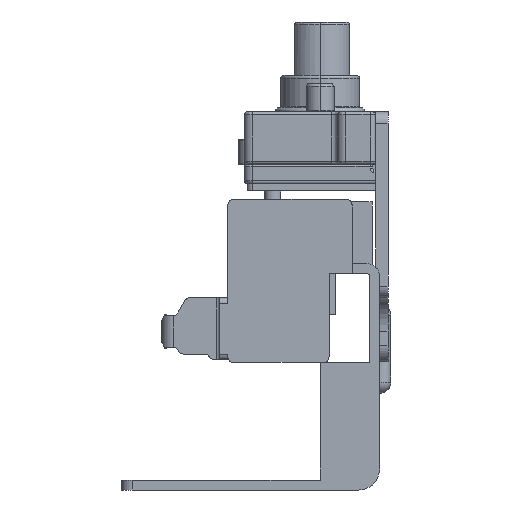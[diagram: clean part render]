
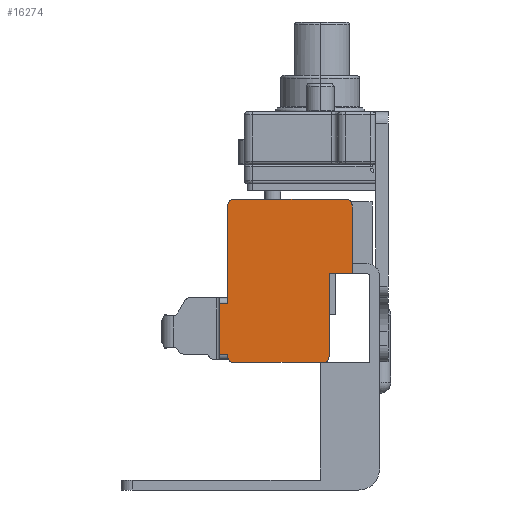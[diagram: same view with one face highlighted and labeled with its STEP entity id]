
A CAD part, left-side view. The second image highlights one B-rep face of the part: STEP entity #16274.
In plain terms, the highlighted planar face has unit normal (-1, 0, 0).
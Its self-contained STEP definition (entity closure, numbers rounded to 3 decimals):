
#39 = DIRECTION ( 'NONE',  ( 0., 0., 1. ) ) ;
#73 = CARTESIAN_POINT ( 'NONE',  ( -257.27, -22.833, 43.249 ) ) ;
#271 = ORIENTED_EDGE ( 'NONE', *, *, #4272, .F. ) ;
#445 = PLANE ( 'NONE',  #1792 ) ;
#457 = ORIENTED_EDGE ( 'NONE', *, *, #15625, .T. ) ;
#515 = EDGE_CURVE ( 'NONE', #14714, #926, #1263, .T. ) ;
#533 = EDGE_CURVE ( 'NONE', #4073, #1577, #10716, .T. ) ;
#776 = ORIENTED_EDGE ( 'NONE', *, *, #903, .F. ) ;
#903 = EDGE_CURVE ( 'NONE', #11009, #8285, #13228, .T. ) ;
#926 = VERTEX_POINT ( 'NONE', #7735 ) ;
#937 = CARTESIAN_POINT ( 'NONE',  ( -257.27, -23.833, 43.249 ) ) ;
#970 = DIRECTION ( 'NONE',  ( 0., 0., 1. ) ) ;
#1159 = DIRECTION ( 'NONE',  ( -1., 0., 0. ) ) ;
#1168 = EDGE_CURVE ( 'NONE', #6683, #2092, #3156, .T. ) ;
#1263 = CIRCLE ( 'NONE', #10923, 1. ) ;
#1269 = VECTOR ( 'NONE', #9916, 1000. ) ;
#1419 = DIRECTION ( 'NONE',  ( 0., 0., 1. ) ) ;
#1455 = CARTESIAN_POINT ( 'NONE',  ( -257.27, -23.833, 58.079 ) ) ;
#1577 = VERTEX_POINT ( 'NONE', #16400 ) ;
#1792 = AXIS2_PLACEMENT_3D ( 'NONE', #9833, #11186, #3158 ) ;
#2092 = VERTEX_POINT ( 'NONE', #11657 ) ;
#2113 = VECTOR ( 'NONE', #6079, 1000. ) ;
#2511 = AXIS2_PLACEMENT_3D ( 'NONE', #73, #9452, #1419 ) ;
#2736 = VERTEX_POINT ( 'NONE', #1455 ) ;
#3063 = ORIENTED_EDGE ( 'NONE', *, *, #13966, .T. ) ;
#3156 = LINE ( 'NONE', #8172, #17425 ) ;
#3158 = DIRECTION ( 'NONE',  ( 0., 0., 1. ) ) ;
#3464 = VERTEX_POINT ( 'NONE', #11036 ) ;
#3715 = DIRECTION ( 'NONE',  ( 0., -1., 0. ) ) ;
#3752 = CARTESIAN_POINT ( 'NONE',  ( -257.27, -4.363, 42.749 ) ) ;
#3786 = VERTEX_POINT ( 'NONE', #12542 ) ;
#4003 = VECTOR ( 'NONE', #6826, 1000. ) ;
#4073 = VERTEX_POINT ( 'NONE', #6776 ) ;
#4202 = CARTESIAN_POINT ( 'NONE',  ( -257.27, -4.363, 52.749 ) ) ;
#4272 = EDGE_CURVE ( 'NONE', #14714, #6501, #4883, .T. ) ;
#4604 = VECTOR ( 'NONE', #13176, 1000. ) ;
#4624 = FACE_OUTER_BOUND ( 'NONE', #15000, .T. ) ;
#4849 = LINE ( 'NONE', #13922, #1269 ) ;
#4883 = LINE ( 'NONE', #8723, #15582 ) ;
#4907 = EDGE_CURVE ( 'NONE', #13243, #926, #16616, .T. ) ;
#5300 = EDGE_CURVE ( 'NONE', #2736, #6501, #4849, .T. ) ;
#5467 = LINE ( 'NONE', #12137, #8606 ) ;
#5839 = EDGE_CURVE ( 'NONE', #8285, #3464, #12406, .T. ) ;
#6079 = DIRECTION ( 'NONE',  ( 0., 0., 1. ) ) ;
#6501 = VERTEX_POINT ( 'NONE', #13275 ) ;
#6668 = CARTESIAN_POINT ( 'NONE',  ( -257.27, -9.833, 71.279 ) ) ;
#6683 = VERTEX_POINT ( 'NONE', #8317 ) ;
#6776 = CARTESIAN_POINT ( 'NONE',  ( -257.27, -5.833, 43.749 ) ) ;
#6826 = DIRECTION ( 'NONE',  ( 0., 1., 0. ) ) ;
#7297 = AXIS2_PLACEMENT_3D ( 'NONE', #9198, #1159, #10562 ) ;
#7357 = EDGE_CURVE ( 'NONE', #2092, #16914, #13188, .T. ) ;
#7528 = CARTESIAN_POINT ( 'NONE',  ( -257.27, -6.833, 70.279 ) ) ;
#7735 = CARTESIAN_POINT ( 'NONE',  ( -257.27, -26.933, 71.279 ) ) ;
#8018 = CIRCLE ( 'NONE', #12155, 1. ) ;
#8052 = DIRECTION ( 'NONE',  ( -1., 0., 0. ) ) ;
#8143 = ORIENTED_EDGE ( 'NONE', *, *, #9410, .F. ) ;
#8172 = CARTESIAN_POINT ( 'NONE',  ( -257.27, -9.833, 42.249 ) ) ;
#8285 = VERTEX_POINT ( 'NONE', #13429 ) ;
#8317 = CARTESIAN_POINT ( 'NONE',  ( -257.27, -6.833, 42.249 ) ) ;
#8513 = CARTESIAN_POINT ( 'NONE',  ( -257.27, -6.833, 71.279 ) ) ;
#8606 = VECTOR ( 'NONE', #13499, 1000. ) ;
#8710 = LINE ( 'NONE', #3752, #11852 ) ;
#8723 = CARTESIAN_POINT ( 'NONE',  ( -257.27, -27.933, 39.699 ) ) ;
#8900 = DIRECTION ( 'NONE',  ( 0., 0., 1. ) ) ;
#8988 = LINE ( 'NONE', #14527, #4604 ) ;
#9088 = ORIENTED_EDGE ( 'NONE', *, *, #4907, .F. ) ;
#9105 = ORIENTED_EDGE ( 'NONE', *, *, #7357, .T. ) ;
#9198 = CARTESIAN_POINT ( 'NONE',  ( -257.27, -6.833, 43.249 ) ) ;
#9366 = DIRECTION ( 'NONE',  ( 0., -1., 0. ) ) ;
#9389 = ORIENTED_EDGE ( 'NONE', *, *, #11756, .F. ) ;
#9410 = EDGE_CURVE ( 'NONE', #3786, #4073, #8988, .T. ) ;
#9452 = DIRECTION ( 'NONE',  ( -1., 0., 0. ) ) ;
#9833 = CARTESIAN_POINT ( 'NONE',  ( -257.27, -9.833, 39.699 ) ) ;
#9836 = ORIENTED_EDGE ( 'NONE', *, *, #5839, .F. ) ;
#9916 = DIRECTION ( 'NONE',  ( 0., -1., 0. ) ) ;
#9943 = ORIENTED_EDGE ( 'NONE', *, *, #5300, .T. ) ;
#10395 = CARTESIAN_POINT ( 'NONE',  ( -257.27, -4.363, 52.749 ) ) ;
#10554 = CIRCLE ( 'NONE', #7297, 1. ) ;
#10562 = DIRECTION ( 'NONE',  ( 0., 0., 1. ) ) ;
#10716 = LINE ( 'NONE', #14886, #4003 ) ;
#10923 = AXIS2_PLACEMENT_3D ( 'NONE', #16128, #8052, #39 ) ;
#11009 = VERTEX_POINT ( 'NONE', #4202 ) ;
#11036 = CARTESIAN_POINT ( 'NONE',  ( -257.27, -5.833, 70.279 ) ) ;
#11186 = DIRECTION ( 'NONE',  ( 1., 0., 0. ) ) ;
#11657 = CARTESIAN_POINT ( 'NONE',  ( -257.27, -22.833, 42.249 ) ) ;
#11756 = EDGE_CURVE ( 'NONE', #1577, #11009, #8710, .T. ) ;
#11772 = ORIENTED_EDGE ( 'NONE', *, *, #533, .F. ) ;
#11852 = VECTOR ( 'NONE', #970, 1000. ) ;
#12137 = CARTESIAN_POINT ( 'NONE',  ( -257.27, -23.833, 39.699 ) ) ;
#12155 = AXIS2_PLACEMENT_3D ( 'NONE', #7528, #16935, #8900 ) ;
#12406 = LINE ( 'NONE', #14134, #2113 ) ;
#12542 = CARTESIAN_POINT ( 'NONE',  ( -257.27, -5.833, 43.249 ) ) ;
#12925 = CARTESIAN_POINT ( 'NONE',  ( -257.27, -27.933, 70.279 ) ) ;
#13039 = VECTOR ( 'NONE', #9366, 1000. ) ;
#13176 = DIRECTION ( 'NONE',  ( 0., 0., 1. ) ) ;
#13188 = CIRCLE ( 'NONE', #2511, 1. ) ;
#13228 = LINE ( 'NONE', #10395, #17213 ) ;
#13243 = VERTEX_POINT ( 'NONE', #8513 ) ;
#13275 = CARTESIAN_POINT ( 'NONE',  ( -257.27, -27.933, 58.079 ) ) ;
#13429 = CARTESIAN_POINT ( 'NONE',  ( -257.27, -5.833, 52.749 ) ) ;
#13463 = ORIENTED_EDGE ( 'NONE', *, *, #1168, .T. ) ;
#13499 = DIRECTION ( 'NONE',  ( 0., 0., 1. ) ) ;
#13787 = ORIENTED_EDGE ( 'NONE', *, *, #515, .T. ) ;
#13922 = CARTESIAN_POINT ( 'NONE',  ( -257.27, -9.833, 58.079 ) ) ;
#13966 = EDGE_CURVE ( 'NONE', #13243, #3464, #8018, .T. ) ;
#14134 = CARTESIAN_POINT ( 'NONE',  ( -257.27, -5.833, 39.699 ) ) ;
#14475 = DIRECTION ( 'NONE',  ( 0., -1., 0. ) ) ;
#14527 = CARTESIAN_POINT ( 'NONE',  ( -257.27, -5.833, 39.699 ) ) ;
#14714 = VERTEX_POINT ( 'NONE', #12925 ) ;
#14886 = CARTESIAN_POINT ( 'NONE',  ( -257.27, -4.363, 43.749 ) ) ;
#15000 = EDGE_LOOP ( 'NONE', ( #13463, #9105, #457, #9943, #271, #13787, #9088, #3063, #9836, #776, #9389, #11772, #8143, #15349 ) ) ;
#15349 = ORIENTED_EDGE ( 'NONE', *, *, #17428, .T. ) ;
#15582 = VECTOR ( 'NONE', #16771, 1000. ) ;
#15625 = EDGE_CURVE ( 'NONE', #16914, #2736, #5467, .T. ) ;
#16128 = CARTESIAN_POINT ( 'NONE',  ( -257.27, -26.933, 70.279 ) ) ;
#16274 = ADVANCED_FACE ( 'NONE', ( #4624 ), #445, .F. ) ;
#16400 = CARTESIAN_POINT ( 'NONE',  ( -257.27, -4.363, 43.749 ) ) ;
#16616 = LINE ( 'NONE', #6668, #13039 ) ;
#16771 = DIRECTION ( 'NONE',  ( 0., 0., -1. ) ) ;
#16914 = VERTEX_POINT ( 'NONE', #937 ) ;
#16935 = DIRECTION ( 'NONE',  ( -1., 0., 0. ) ) ;
#17213 = VECTOR ( 'NONE', #3715, 1000. ) ;
#17425 = VECTOR ( 'NONE', #14475, 1000. ) ;
#17428 = EDGE_CURVE ( 'NONE', #3786, #6683, #10554, .T. ) ;
